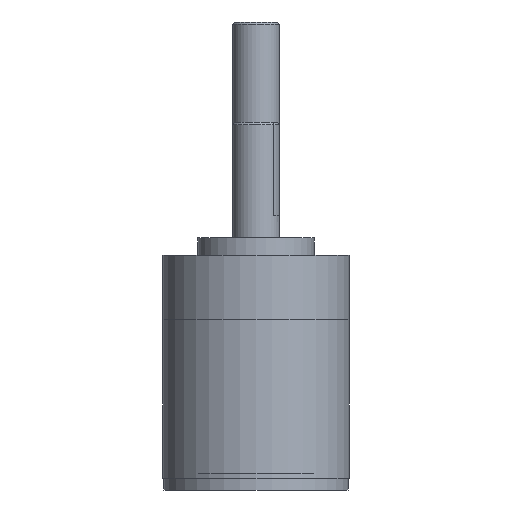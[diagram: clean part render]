
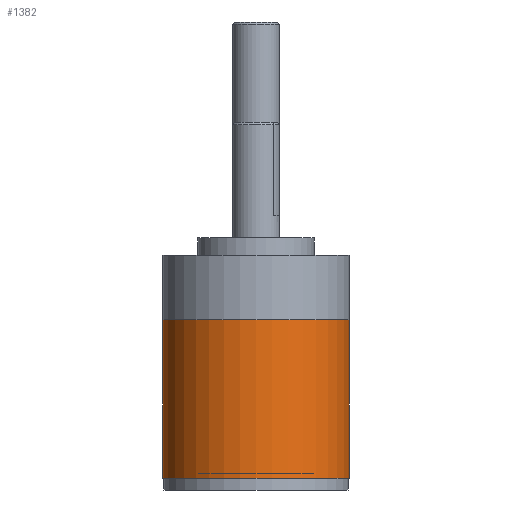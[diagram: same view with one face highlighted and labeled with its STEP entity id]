
A CAD part, left-side view. The second image highlights one B-rep face of the part: STEP entity #1382.
In plain terms, the highlighted cylindrical face has radius 8 mm (diameter 16 mm), a full revolution.
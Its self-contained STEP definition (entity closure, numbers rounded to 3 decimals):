
#1297=CYLINDRICAL_SURFACE('',#4201,8.);
#1382=ADVANCED_FACE('',(#1760,#1761),#1297,.T.);
#1760=FACE_BOUND('',#2020,.T.);
#1761=FACE_BOUND('',#2021,.T.);
#2020=EDGE_LOOP('',(#2415));
#2021=EDGE_LOOP('',(#2416));
#2415=ORIENTED_EDGE('',*,*,#3588,.F.);
#2416=ORIENTED_EDGE('',*,*,#3597,.T.);
#3257=VERTEX_POINT('',#5330);
#3266=VERTEX_POINT('',#5353);
#3588=EDGE_CURVE('',#3257,#3257,#4018,.T.);
#3597=EDGE_CURVE('',#3266,#3266,#4027,.T.);
#4018=CIRCLE('',#4185,8.);
#4027=CIRCLE('',#4199,8.);
#4185=AXIS2_PLACEMENT_3D('',#5329,#4557,#4558);
#4199=AXIS2_PLACEMENT_3D('',#5352,#4585,#4586);
#4201=AXIS2_PLACEMENT_3D('',#5355,#4589,#4590);
#4557=DIRECTION('',(0.,0.,-1.));
#4558=DIRECTION('',(1.,0.,0.));
#4585=DIRECTION('',(0.,0.,-1.));
#4586=DIRECTION('',(1.,0.,0.));
#4589=DIRECTION('',(0.,0.,1.));
#4590=DIRECTION('',(1.,0.,0.));
#5329=CARTESIAN_POINT('',(0.,0.,1.));
#5330=CARTESIAN_POINT('',(8.,0.,1.));
#5352=CARTESIAN_POINT('',(0.,0.,14.599));
#5353=CARTESIAN_POINT('',(8.,0.,14.599));
#5355=CARTESIAN_POINT('',(0.,0.,14.6));
